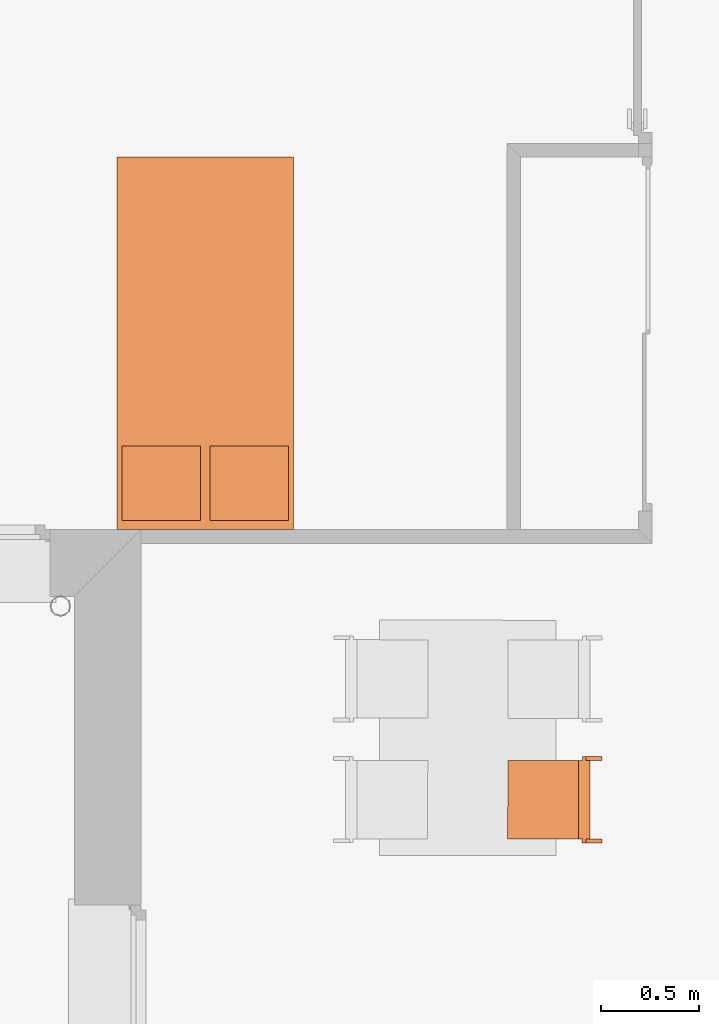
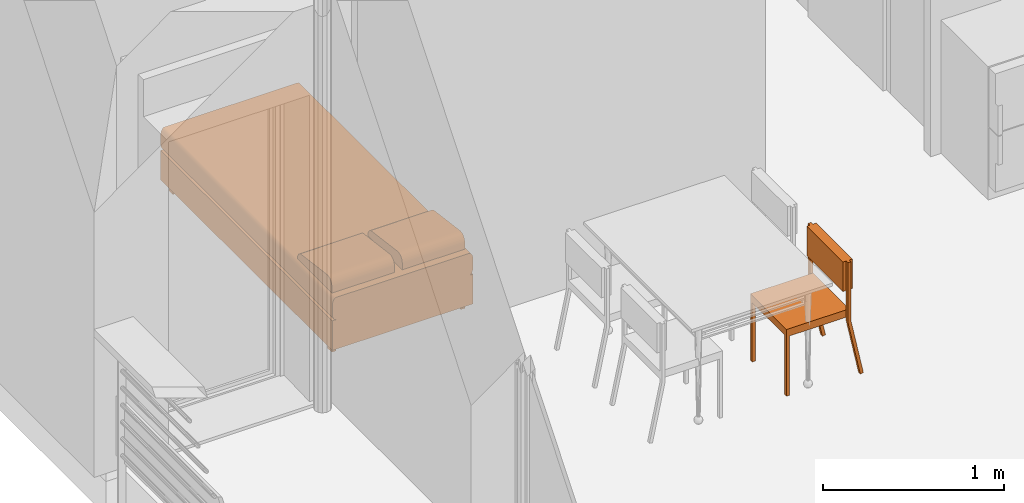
# One storey, part 151 of 171: 2 proxies.
"""IFC2X3 building model written with IfcOpenShell, lengths in millimetres."""

from ifc_helpers import new_model, entity, si_unit, converted_unit, derived_unit, money_unit, direction, frame, origin_with_axes, place, context, subcontext, project, spatial, open_shell, faceted_brep, surface_model, source, transform, mapped, type_object, element, save


model = new_model("IFC2X3")

# Units and contexts
model_context = context("Model", 3, precision=0.01, world=origin_with_axes(), true_north=direction((0.0, 1.0)))
body_context = subcontext(model_context, "Body", "Model", "MODEL_VIEW")
ifc_project = project(units=[si_unit("LENGTHUNIT", "METRE", prefix="MILLI"), si_unit("AREAUNIT", "SQUARE_METRE"), si_unit("VOLUMEUNIT", "CUBIC_METRE"), converted_unit("PLANEANGLEUNIT", "DEGREE", entity("IfcPlaneAngleMeasure", 0.0174532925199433), si_unit("PLANEANGLEUNIT", "RADIAN"), dimensions=[0, 0, 0, 0, 0, 0, 0]), money_unit("USD"), converted_unit("TIMEUNIT", "Year", entity("IfcTimeMeasure", 31557600.0), si_unit("TIMEUNIT", "SECOND"), dimensions=[0, 0, 1, 0, 0, 0, 0]), si_unit("MASSUNIT", "GRAM", prefix="KILO"), si_unit("THERMODYNAMICTEMPERATUREUNIT", "DEGREE_CELSIUS"), si_unit("LUMINOUSINTENSITYUNIT", "LUMEN"), si_unit("ENERGYUNIT", "JOULE", prefix="MEGA"), derived_unit("THERMALCONDUCTANCEUNIT", [(si_unit("POWERUNIT", "WATT"), 1), (si_unit("LENGTHUNIT", "METRE"), -1), (si_unit("THERMODYNAMICTEMPERATUREUNIT", "KELVIN"), -1)]), derived_unit("SPECIFICHEATCAPACITYUNIT", [(si_unit("ENERGYUNIT", "JOULE"), 1), (si_unit("MASSUNIT", "GRAM", prefix="KILO"), -1), (si_unit("THERMODYNAMICTEMPERATUREUNIT", "KELVIN"), -1)]), derived_unit("MASSDENSITYUNIT", [(si_unit("MASSUNIT", "GRAM", prefix="KILO"), 1), (si_unit("VOLUMEUNIT", "CUBIC_METRE"), -1)])], contexts=[model_context])

# Site, building, storey
site_placement = place(None, origin_with_axes())
site = spatial("IfcSite", under=ifc_project, at=site_placement, Name="Site", CompositionType="ELEMENT")
building_placement = place(site_placement, origin_with_axes())
building = spatial("IfcBuilding", under=site, at=building_placement, Name="Bâtiment", CompositionType="ELEMENT")
storey_placement = place(building_placement, frame((0.0, 0.0, 3000.0), z_axis=(0.0, 0.0, 1.0), x_axis=(1.0, 0.0, 0.0)))
storey = spatial("IfcBuildingStorey", under=building, at=storey_placement, Name="rdc", CompositionType="ELEMENT", Elevation=3000.0)

# Proxies
building_element_proxy_type = type_object("IfcBuildingElementProxyType", PredefinedType="NOTDEFINED")
shared_shape_1 = source(origin_with_axes(), body_context, "Body", "Brep", [
    faceted_brep([(39.99999978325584, 0.0, 0.0), (19.99999989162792, 0.0, 0.0), (19.99999989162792, 19.99999936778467, 0.0), (39.99999978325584, 19.99999936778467, 0.0), (39.99999978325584, 0.0, 400.0), (19.99999989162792, 0.0, 400.0), (19.99999989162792, 19.99999936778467, 400.0), (39.99999978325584, 19.99999936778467, 400.0)], [[[0, 1, 2, 3]], [[1, 0, 4, 5]], [[2, 1, 5, 6]], [[3, 2, 6, 7]], [[0, 3, 7, 4]], [[5, 4, 7, 6]]]),
    faceted_brep([(419.9999977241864, 0.0, 0.0), (399.9999978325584, 0.0, 0.0), (399.9999978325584, 19.99999936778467, 0.0), (419.9999977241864, 19.99999936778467, 0.0), (419.9999977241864, 0.0, 400.0), (399.9999978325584, 0.0, 400.0), (399.9999978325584, 19.99999936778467, 400.0), (419.9999977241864, 19.99999936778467, 400.0)], [[[0, 1, 2, 3]], [[1, 0, 4, 5]], [[2, 1, 5, 6]], [[3, 2, 6, 7]], [[0, 3, 7, 4]], [[5, 4, 7, 6]]]),
    faceted_brep([(399.9999978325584, 0.0, 400.0000000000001), (39.99999978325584, 0.0, 400.0000000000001), (39.99999978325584, 19.99999936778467, 400.0000000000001), (399.9999978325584, 19.99999936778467, 400.0000000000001), (399.9999978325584, 0.0, 420.0000000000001), (39.99999978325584, 0.0, 420.0000000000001), (39.99999978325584, 19.99999936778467, 420.0000000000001), (399.9999978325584, 19.99999936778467, 420.0000000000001)], [[[0, 1, 2, 3]], [[1, 0, 4, 5]], [[2, 1, 5, 6]], [[3, 2, 6, 7]], [[0, 3, 7, 4]], [[5, 4, 7, 6]]]),
    faceted_brep([(39.99999978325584, 19.99999936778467, 400.0000000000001), (19.99999989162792, 19.99999936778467, 400.0000000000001), (19.99999989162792, 379.9999879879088, 400.0000000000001), (39.99999978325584, 379.9999879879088, 400.0000000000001), (39.99999978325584, 19.99999936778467, 420.0000000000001), (19.99999989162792, 19.99999936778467, 420.0000000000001), (19.99999989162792, 379.9999879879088, 420.0000000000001), (39.99999978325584, 379.9999879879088, 420.0000000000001)], [[[0, 1, 2, 3]], [[1, 0, 4, 5]], [[2, 1, 5, 6]], [[3, 2, 6, 7]], [[0, 3, 7, 4]], [[5, 4, 7, 6]]]),
    faceted_brep([(419.9999977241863, 379.9999879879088, 400.0000000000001), (19.99999989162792, 379.9999879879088, 400.0000000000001), (19.99999989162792, 399.9999873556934, 400.0000000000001), (419.9999977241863, 399.9999873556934, 400.0000000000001), (419.9999977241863, 379.9999879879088, 420.0000000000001), (19.99999989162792, 379.9999879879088, 420.0000000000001), (19.99999989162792, 399.9999873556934, 420.0000000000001), (419.9999977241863, 399.9999873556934, 420.0000000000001)], [[[0, 1, 2, 3]], [[1, 0, 4, 5]], [[2, 1, 5, 6]], [[3, 2, 6, 7]], [[0, 3, 7, 4]], [[5, 4, 7, 6]]]),
    faceted_brep([(419.9999977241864, 19.99999936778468, 400.0000000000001), (399.9999978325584, 19.99999936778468, 400.0000000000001), (399.9999978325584, 379.9999879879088, 400.0000000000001), (419.9999977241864, 379.9999879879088, 400.0000000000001), (419.9999977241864, 19.99999936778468, 420.0000000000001), (399.9999978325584, 19.99999936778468, 420.0000000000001), (399.9999978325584, 379.9999879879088, 420.0000000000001), (419.9999977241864, 379.9999879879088, 420.0000000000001)], [[[0, 1, 2, 3]], [[1, 0, 4, 5]], [[2, 1, 5, 6]], [[3, 2, 6, 7]], [[0, 3, 7, 4]], [[5, 4, 7, 6]]]),
    faceted_brep([(419.9999977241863, 0.0, 400.0), (19.99999989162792, 0.0, 400.0), (19.99999989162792, 399.9999873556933, 400.0), (419.9999977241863, 399.9999873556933, 400.0), (419.9999977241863, 0.0, 450.0), (19.99999989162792, 0.0, 450.0), (19.99999989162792, 399.9999873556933, 450.0), (419.9999977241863, 399.9999873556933, 450.0)], [[[0, 1, 2, 3]], [[1, 0, 4, 5]], [[2, 1, 5, 6]], [[3, 2, 6, 7]], [[0, 3, 7, 4]], [[5, 4, 7, 6]]]),
    faceted_brep([(19.99999989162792, 379.9999879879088, 380.0), (0.0, 379.9999879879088, 380.0), (0.0, 399.9999873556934, 380.0), (19.99999989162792, 399.9999873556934, 380.0), (19.99999989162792, 379.9999879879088, 780.0), (0.0, 379.9999879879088, 780.0), (0.0, 399.9999873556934, 780.0), (19.99999989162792, 399.9999873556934, 780.0)], [[[0, 1, 2, 3]], [[1, 0, 4, 5]], [[2, 1, 5, 6]], [[3, 2, 6, 7]], [[0, 3, 7, 4]], [[5, 4, 7, 6]]]),
    faceted_brep([(439.9999976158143, 379.9999879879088, 380.0), (419.9999977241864, 379.9999879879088, 380.0), (419.9999977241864, 399.9999873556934, 380.0), (439.9999976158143, 399.9999873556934, 380.0), (439.9999976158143, 379.9999879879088, 780.0), (419.9999977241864, 379.9999879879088, 780.0), (419.9999977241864, 399.9999873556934, 780.0), (439.9999976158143, 399.9999873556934, 780.0)], [[[0, 1, 2, 3]], [[1, 0, 4, 5]], [[2, 1, 5, 6]], [[3, 2, 6, 7]], [[0, 3, 7, 4]], [[5, 4, 7, 6]]]),
    faceted_brep([(419.9999977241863, 359.999988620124, 580.0000000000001), (19.99999989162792, 359.999988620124, 580.0000000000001), (19.99999989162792, 419.9999867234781, 580.0000000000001), (419.9999977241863, 419.9999867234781, 580.0000000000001), (419.9999977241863, 359.999988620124, 780.0), (19.99999989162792, 359.999988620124, 780.0), (19.99999989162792, 419.9999867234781, 780.0), (419.9999977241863, 419.9999867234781, 780.0)], [[[0, 1, 2, 3]], [[1, 0, 4, 5]], [[2, 1, 5, 6]], [[3, 2, 6, 7]], [[0, 3, 7, 4]], [[5, 4, 7, 6]]]),
    faceted_brep([(19.99999989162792, 459.9999854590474, 0.0), (0.0, 459.9999854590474, 0.0), (0.0, 479.5709559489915, 4.120326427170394), (19.99999989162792, 479.5709559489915, 4.120326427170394), (19.99999989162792, 379.997669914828, 379.999760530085), (0.0, 379.997669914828, 379.999760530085), (0.0, 399.5686404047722, 384.1200869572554), (19.99999989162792, 399.5686404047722, 384.1200869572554)], [[[0, 1, 2, 3]], [[1, 0, 4, 5]], [[2, 1, 5, 6]], [[3, 2, 6, 7]], [[0, 3, 7, 4]], [[5, 4, 7, 6]]]),
    faceted_brep([(439.9999976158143, 459.9999854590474, 0.0), (419.9999977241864, 459.9999854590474, 0.0), (419.9999977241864, 479.5709559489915, 4.120326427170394), (439.9999976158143, 479.5709559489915, 4.120326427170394), (439.9999976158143, 379.997669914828, 379.999760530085), (419.9999977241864, 379.997669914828, 379.999760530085), (419.9999977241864, 399.5686404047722, 384.1200869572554), (439.9999976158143, 399.5686404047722, 384.1200869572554)], [[[0, 1, 2, 3]], [[1, 0, 4, 5]], [[2, 1, 5, 6]], [[3, 2, 6, 7]], [[0, 3, 7, 4]], [[5, 4, 7, 6]]]),
])
proxy_1_placement = place(storey_placement, frame((2220344.917869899, -639833.3174866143, 0.0), z_axis=(0.0, 0.0, 1.0), x_axis=(-0.0005412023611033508, -0.9999998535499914, 0.0)))
element("IfcBuildingElementProxy", 1, at=proxy_1_placement, inside=storey, type_object=building_element_proxy_type, Name="Obj.-027", context=body_context, shape_type="MappedRepresentation", body=[
    mapped(shared_shape_1, transform((0.0, 0.0, 0.0))),
])
shared_shape_2 = source(origin_with_axes(), body_context, "Body", "SurfaceModel", [
    faceted_brep([(400.0, -95.0, 0.0), (400.0, -47.5, 0.0), (425.0000000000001, -47.5, 0.0), (425.0000000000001, -95.0, 0.0), (400.0, -95.0, 50.0), (400.0, -47.5, 50.0), (425.0000000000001, -47.5, 50.0), (425.0000000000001, -95.0, 50.0)], [[[0, 1, 2, 3]], [[0, 4, 5, 1]], [[1, 5, 6, 2]], [[2, 6, 7, 3]], [[3, 7, 4, 0]], [[7, 6, 5, 4]]]),
    faceted_brep([(400.0, -1852.5, 0.0), (400.0, -1805.0, 0.0), (425.0000000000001, -1805.0, 0.0), (425.0000000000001, -1852.5, 0.0), (400.0, -1852.5, 50.0), (400.0, -1805.0, 50.0), (425.0000000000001, -1805.0, 50.0), (425.0000000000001, -1852.5, 50.0)], [[[0, 1, 2, 3]], [[0, 4, 5, 1]], [[1, 5, 6, 2]], [[2, 6, 7, 3]], [[3, 7, 4, 0]], [[7, 6, 5, 4]]]),
    faceted_brep([(-425.0000000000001, -1852.5, 0.0), (-425.0000000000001, -1805.0, 0.0), (-400.0, -1805.0, 0.0), (-400.0, -1852.5, 0.0), (-425.0000000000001, -1852.5, 50.0), (-425.0000000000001, -1805.0, 50.0), (-400.0, -1805.0, 50.0), (-400.0, -1852.5, 50.0)], [[[0, 1, 2, 3]], [[0, 4, 5, 1]], [[1, 5, 6, 2]], [[2, 6, 7, 3]], [[3, 7, 4, 0]], [[7, 6, 5, 4]]]),
    faceted_brep([(-425.0000000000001, -94.99999999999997, 0.0), (-425.0000000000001, -47.49999999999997, 0.0), (-400.0, -47.49999999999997, 0.0), (-400.0, -94.99999999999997, 0.0), (-425.0000000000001, -94.99999999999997, 50.0), (-425.0000000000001, -47.49999999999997, 50.0), (-400.0, -47.49999999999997, 50.0), (-400.0, -94.99999999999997, 50.0)], [[[0, 1, 2, 3]], [[0, 4, 5, 1]], [[1, 5, 6, 2]], [[2, 6, 7, 3]], [[3, 7, 4, 0]], [[7, 6, 5, 4]]]),
    faceted_brep([(450.0, 0.0, 50.0), (450.0, -1900.0, 50.00000000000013), (-450.0, -1900.0, 50.00000000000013), (-450.0, 0.0, 50.0), (450.0, 0.0, 250.0), (450.0, -1900.0, 250.0000000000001), (-450.0, -1900.0, 250.0000000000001), (-450.0, 0.0, 250.0)], [[[0, 1, 2, 3]], [[4, 5, 1, 0]], [[1, 5, 6, 2]], [[3, 2, 6, 7]], [[0, 3, 7, 4]], [[7, 6, 5, 4]]]),
    surface_model("IfcShellBasedSurfaceModel", [(-425.0000000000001, 0.0, 250.0), (-425.0000000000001, -1900.0, 250.0000000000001), (-429.3412044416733, -1900.0, 250.7596123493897), (-429.3412044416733, 0.0, 250.7596123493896), (425.0000000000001, -1900.0, 250.0000000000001), (429.3412044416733, -1900.0, 250.7596123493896), (433.5505035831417, -1900.0, 253.0153689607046), (437.5, -1900.0, 256.6987298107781), (441.0696902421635, -1900.0, 261.6977778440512), (444.1511110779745, -1900.0, 267.8606195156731), (446.650635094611, -1900.0, 275.0000000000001), (448.4923155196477, -1900.0, 282.8989928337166), (449.6201938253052, -1900.0, 291.3175911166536), (450.0, -1900.0, 300.0000000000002), (450.0000000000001, -1900.0, 350.0000000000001), (449.6201938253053, -1900.0, 358.6824088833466), (448.4923155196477, -1900.0, 367.1010071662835), (446.650635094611, -1900.0, 375.0000000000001), (444.1511110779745, -1900.0, 382.1393804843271), (441.0696902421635, -1900.0, 388.302222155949), (437.5000000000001, -1900.0, 393.3012701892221), (433.5505035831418, -1900.0, 396.9846310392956), (429.3412044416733, -1900.0, 399.2403876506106), (425.0000000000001, -1900.0, 400.0000000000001), (-425.0, -1900.0, 400.0000000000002), (-429.3412044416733, -1900.0, 399.2403876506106), (-433.5505035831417, -1900.0, 396.9846310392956), (-437.5, -1900.0, 393.3012701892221), (-441.0696902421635, -1900.0, 388.302222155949), (-444.1511110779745, -1900.0, 382.1393804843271), (-446.6506350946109, -1900.0, 375.0000000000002), (-448.4923155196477, -1900.0, 367.1010071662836), (-449.6201938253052, -1900.0, 358.6824088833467), (-450.0, -1900.0, 350.0000000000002), (-450.0, -1900.0, 300.0000000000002), (-449.6201938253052, -1900.0, 291.3175911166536), (-448.4923155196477, -1900.0, 282.8989928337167), (-446.650635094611, -1900.0, 275.0000000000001), (-444.1511110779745, -1900.0, 267.8606195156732), (-441.0696902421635, -1900.0, 261.6977778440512), (-437.5000000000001, -1900.0, 256.6987298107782), (-433.5505035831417, -1900.0, 253.0153689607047), (-433.5505035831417, 0.0, 253.0153689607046), (425.0000000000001, 0.0, 250.0), (-437.5000000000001, 0.0, 256.698729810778), (-441.0696902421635, 0.0, 261.6977778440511), (-444.1511110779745, 0.0, 267.8606195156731), (-446.650635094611, 0.0, 275.0), (-448.4923155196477, 0.0, 282.8989928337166), (-449.6201938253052, 0.0, 291.3175911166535), (-450.0, 0.0, 300.0000000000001), (-450.0, 0.0, 350.0000000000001), (-449.6201938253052, 0.0, 358.6824088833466), (-448.4923155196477, 0.0, 367.1010071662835), (-446.6506350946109, 0.0, 375.0000000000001), (-444.1511110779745, 0.0, 382.139380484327), (-441.0696902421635, 0.0, 388.3022221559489), (-437.5, 0.0, 393.301270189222), (-433.5505035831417, 0.0, 396.9846310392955), (-429.3412044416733, 0.0, 399.2403876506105), (-425.0, 0.0, 400.0000000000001), (425.0000000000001, 0.0, 400.0), (429.3412044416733, 0.0, 399.2403876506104), (433.5505035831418, 0.0, 396.9846310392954), (437.5000000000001, 0.0, 393.301270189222), (441.0696902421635, 0.0, 388.3022221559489), (444.1511110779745, 0.0, 382.139380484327), (446.650635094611, 0.0, 375.0), (448.4923155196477, 0.0, 367.1010071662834), (449.6201938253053, 0.0, 358.6824088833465), (450.0000000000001, 0.0, 350.0), (450.0, 0.0, 300.0000000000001), (449.6201938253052, 0.0, 291.3175911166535), (448.4923155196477, 0.0, 282.8989928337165), (446.650635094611, 0.0, 275.0), (444.1511110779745, 0.0, 267.860619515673), (441.0696902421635, 0.0, 261.6977778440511), (437.5, 0.0, 256.698729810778), (433.5505035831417, 0.0, 253.0153689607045), (429.3412044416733, 0.0, 250.7596123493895)], [open_shell([[[0, 1, 2, 3]], [[4, 5, 6, 7, 8, 9, 10, 11, 12, 13, 14, 15, 16, 17, 18, 19, 20, 21, 22, 23, 24, 25, 26, 27, 28, 29, 30, 31, 32, 33, 34, 35, 36, 37, 38, 39, 40, 41, 2, 1]], [[3, 2, 41, 42]], [[43, 0, 3, 42, 44, 45, 46, 47, 48, 49, 50, 51, 52, 53, 54, 55, 56, 57, 58, 59, 60, 61, 62, 63, 64, 65, 66, 67, 68, 69, 70, 71, 72, 73, 74, 75, 76, 77, 78, 79]], [[79, 5, 4, 43]], [[78, 6, 5, 79]], [[77, 7, 6, 78]], [[76, 8, 7, 77]], [[75, 9, 8, 76]], [[74, 10, 9, 75]], [[73, 11, 10, 74]], [[72, 12, 11, 73]], [[71, 13, 12, 72]], [[70, 14, 13, 71]], [[69, 15, 14, 70]], [[68, 16, 15, 69]], [[67, 17, 16, 68]], [[66, 18, 17, 67]], [[65, 19, 18, 66]], [[64, 20, 19, 65]], [[63, 21, 20, 64]], [[62, 22, 21, 63]], [[61, 23, 22, 62]], [[60, 24, 23, 61]], [[59, 25, 24, 60]], [[58, 26, 25, 59]], [[57, 27, 26, 58]], [[56, 28, 27, 57]], [[55, 29, 28, 56]], [[54, 30, 29, 55]], [[53, 31, 30, 54]], [[52, 32, 31, 53]], [[51, 33, 32, 52]], [[50, 34, 33, 51]], [[49, 35, 34, 50]], [[48, 36, 35, 49]], [[47, 37, 36, 48]], [[46, 38, 37, 47]], [[45, 39, 38, 46]], [[44, 40, 39, 45]], [[42, 41, 40, 44]]])]),
    faceted_brep([(-24.99999999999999, -47.49999999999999, 400.0), (-425.0, -47.50000000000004, 400.0000000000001), (-425.0, -47.50000000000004, 443.4000000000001), (-24.99999999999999, -47.49999999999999, 443.4), (-24.99999999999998, -427.5, 400.0), (-425.0, -427.5, 400.0000000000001), (-425.0, -427.6960812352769, 408.6954428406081), (-425.0, -426.4675711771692, 417.2966661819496), (-425.0, -423.8511300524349, 425.5469991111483), (-425.0, -419.924835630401, 433.2002417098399), (-425.0, -414.8058532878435, 440.0280119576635), (-425.0, -408.6469396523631, 445.826560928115), (-425.0, -401.6318841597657, 450.4228529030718), (-425.0, -393.9700245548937, 453.6797289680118), (-425.0, -385.89, 455.5000000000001), (-425.0, -100.8900000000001, 493.0000000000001), (-425.0, -92.85488048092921, 493.3370808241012), (-425.0, -84.88093291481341, 492.2422169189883), (-425.0, -77.19681007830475, 489.7468034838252), (-425.0, -70.02285403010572, 485.922396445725), (-425.0, -63.56477780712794, 480.878660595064), (-425.0, -58.00776660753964, 474.7602249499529), (-425.0, -53.51116760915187, 467.7425355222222), (-425.0, -50.20392069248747, 460.0268244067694), (-425.0, -48.18086109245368, 451.8343394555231), (-24.99999999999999, -48.18086109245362, 451.834339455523), (-24.99999999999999, -50.20392069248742, 460.0268244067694), (-24.99999999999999, -53.51116760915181, 467.7425355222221), (-24.99999999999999, -58.00776660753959, 474.7602249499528), (-24.99999999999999, -63.56477780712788, 480.878660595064), (-24.99999999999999, -70.02285403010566, 485.922396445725), (-24.99999999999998, -77.19681007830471, 489.7468034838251), (-24.99999999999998, -84.88093291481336, 492.2422169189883), (-24.99999999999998, -92.85488048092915, 493.3370808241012), (-24.99999999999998, -100.89, 493.0000000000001), (-24.99999999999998, -385.89, 455.5), (-24.99999999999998, -393.9700245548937, 453.6797289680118), (-24.99999999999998, -401.6318841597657, 450.4228529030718), (-24.99999999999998, -408.6469396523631, 445.826560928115), (-24.99999999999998, -414.8058532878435, 440.0280119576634), (-24.99999999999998, -419.9248356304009, 433.2002417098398), (-24.99999999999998, -423.8511300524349, 425.5469991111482), (-24.99999999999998, -426.4675711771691, 417.2966661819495), (-24.99999999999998, -427.6960812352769, 408.695442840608)], [[[0, 1, 2, 3]], [[4, 5, 1, 0]], [[1, 5, 6, 7, 8, 9, 10, 11, 12, 13, 14, 15, 16, 17, 18, 19, 20, 21, 22, 23, 24, 2]], [[3, 2, 24, 25]], [[0, 3, 25, 26, 27, 28, 29, 30, 31, 32, 33, 34, 35, 36, 37, 38, 39, 40, 41, 42, 43, 4]], [[43, 6, 5, 4]], [[42, 7, 6, 43]], [[41, 8, 7, 42]], [[40, 9, 8, 41]], [[39, 10, 9, 40]], [[38, 11, 10, 39]], [[37, 12, 11, 38]], [[36, 13, 12, 37]], [[35, 14, 13, 36]], [[34, 15, 14, 35]], [[33, 16, 15, 34]], [[32, 17, 16, 33]], [[31, 18, 17, 32]], [[30, 19, 18, 31]], [[29, 20, 19, 30]], [[28, 21, 20, 29]], [[27, 22, 21, 28]], [[26, 23, 22, 27]], [[25, 24, 23, 26]]]),
    faceted_brep([(425.0000000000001, -47.49999999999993, 399.9999999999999), (25.00000000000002, -47.49999999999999, 400.0), (25.00000000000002, -47.49999999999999, 443.4), (425.0000000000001, -47.49999999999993, 443.4), (425.0000000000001, -427.4999999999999, 399.9999999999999), (25.00000000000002, -427.4999999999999, 400.0), (25.00000000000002, -427.6960812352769, 408.695442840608), (25.00000000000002, -426.4675711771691, 417.2966661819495), (25.00000000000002, -423.8511300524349, 425.5469991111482), (25.00000000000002, -419.9248356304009, 433.2002417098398), (25.00000000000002, -414.8058532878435, 440.0280119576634), (25.00000000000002, -408.6469396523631, 445.826560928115), (25.00000000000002, -401.6318841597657, 450.4228529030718), (25.00000000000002, -393.9700245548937, 453.6797289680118), (25.00000000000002, -385.8899999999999, 455.5), (25.00000000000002, -100.89, 493.0000000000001), (25.00000000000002, -92.85488048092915, 493.3370808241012), (25.00000000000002, -84.88093291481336, 492.2422169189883), (25.00000000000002, -77.19681007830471, 489.7468034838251), (25.00000000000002, -70.02285403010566, 485.922396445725), (25.00000000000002, -63.56477780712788, 480.878660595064), (25.00000000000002, -58.00776660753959, 474.7602249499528), (25.00000000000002, -53.51116760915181, 467.7425355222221), (25.00000000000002, -50.20392069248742, 460.0268244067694), (25.00000000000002, -48.18086109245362, 451.834339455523), (425.0000000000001, -48.18086109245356, 451.834339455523), (425.0000000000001, -50.20392069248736, 460.0268244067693), (425.0000000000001, -53.51116760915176, 467.7425355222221), (425.0000000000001, -58.00776660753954, 474.7602249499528), (425.0000000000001, -63.56477780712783, 480.8786605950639), (425.0000000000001, -70.0228540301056, 485.9223964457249), (425.0000000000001, -77.19681007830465, 489.7468034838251), (425.0000000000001, -84.8809329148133, 492.2422169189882), (425.0000000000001, -92.8548804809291, 493.3370808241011), (425.0000000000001, -100.89, 493.0), (425.0000000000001, -385.8899999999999, 455.4999999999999), (425.0000000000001, -393.9700245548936, 453.6797289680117), (425.0000000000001, -401.6318841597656, 450.4228529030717), (425.0000000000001, -408.646939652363, 445.8265609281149), (425.0000000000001, -414.8058532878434, 440.0280119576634), (425.0000000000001, -419.9248356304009, 433.2002417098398), (425.0000000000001, -423.8511300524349, 425.5469991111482), (425.0000000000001, -426.4675711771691, 417.2966661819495), (425.0000000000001, -427.6960812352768, 408.6954428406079)], [[[0, 1, 2, 3]], [[4, 5, 1, 0]], [[1, 5, 6, 7, 8, 9, 10, 11, 12, 13, 14, 15, 16, 17, 18, 19, 20, 21, 22, 23, 24, 2]], [[3, 2, 24, 25]], [[0, 3, 25, 26, 27, 28, 29, 30, 31, 32, 33, 34, 35, 36, 37, 38, 39, 40, 41, 42, 43, 4]], [[43, 6, 5, 4]], [[42, 7, 6, 43]], [[41, 8, 7, 42]], [[40, 9, 8, 41]], [[39, 10, 9, 40]], [[38, 11, 10, 39]], [[37, 12, 11, 38]], [[36, 13, 12, 37]], [[35, 14, 13, 36]], [[34, 15, 14, 35]], [[33, 16, 15, 34]], [[32, 17, 16, 33]], [[31, 18, 17, 32]], [[30, 19, 18, 31]], [[29, 20, 19, 30]], [[28, 21, 20, 29]], [[27, 22, 21, 28]], [[26, 23, 22, 27]], [[25, 24, 23, 26]]]),
])
proxy_2_placement = place(storey_placement, frame((2218802.049231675, -638676.8095642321, 0.0), z_axis=(0.0, 0.0, 1.0), x_axis=(-0.9999999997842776, -2.077125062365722e-05, 0.0)))
element("IfcBuildingElementProxy", 2, at=proxy_2_placement, inside=storey, type_object=building_element_proxy_type, Name="Obj.-003", context=body_context, shape_type="MappedRepresentation", body=[
    mapped(shared_shape_2, transform((0.0, 0.0, 0.0))),
])

save(model, "model.ifc")
